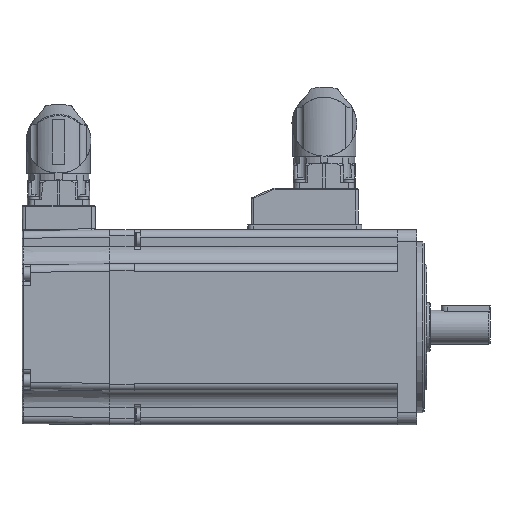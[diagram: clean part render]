
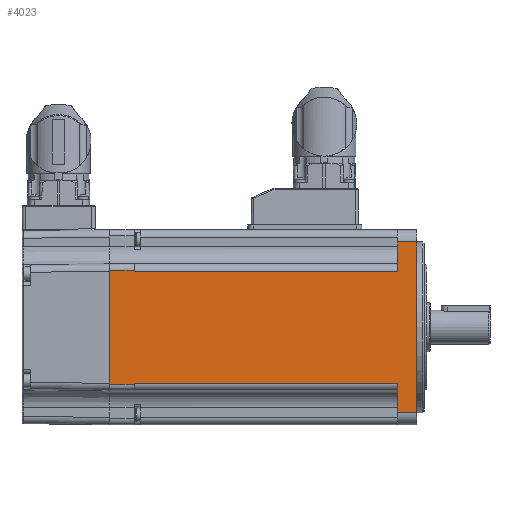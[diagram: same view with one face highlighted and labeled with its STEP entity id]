
A CAD part, left-side view. The second image highlights one B-rep face of the part: STEP entity #4023.
In plain terms, the highlighted planar face has unit normal (-1, 0, 0).
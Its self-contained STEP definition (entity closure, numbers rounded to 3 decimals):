
#4023 = ADVANCED_FACE( '', ( #10103 ), #10104, .T. );
#10103 = FACE_OUTER_BOUND( '', #21204, .T. );
#10104 = PLANE( '', #21205 );
#21204 = EDGE_LOOP( '', ( #40256, #40257, #40258, #40259, #40260, #40261, #40262, #40263, #40264, #40265, #40266, #40267, #40268, #40269 ) );
#21205 = AXIS2_PLACEMENT_3D( '', #40270, #40271, #40272 );
#40256 = ORIENTED_EDGE( '', *, *, #60273, .T. );
#40257 = ORIENTED_EDGE( '', *, *, #60274, .T. );
#40258 = ORIENTED_EDGE( '', *, *, #60275, .T. );
#40259 = ORIENTED_EDGE( '', *, *, #60276, .F. );
#40260 = ORIENTED_EDGE( '', *, *, #60277, .F. );
#40261 = ORIENTED_EDGE( '', *, *, #60278, .F. );
#40262 = ORIENTED_EDGE( '', *, *, #60279, .T. );
#40263 = ORIENTED_EDGE( '', *, *, #60280, .T. );
#40264 = ORIENTED_EDGE( '', *, *, #60281, .T. );
#40265 = ORIENTED_EDGE( '', *, *, #60282, .F. );
#40266 = ORIENTED_EDGE( '', *, *, #60283, .T. );
#40267 = ORIENTED_EDGE( '', *, *, #58603, .F. );
#40268 = ORIENTED_EDGE( '', *, *, #58903, .T. );
#40269 = ORIENTED_EDGE( '', *, *, #60284, .F. );
#40270 = CARTESIAN_POINT( '', ( -40., 78.5, -40. ) );
#40271 = DIRECTION( '', ( -1., 0., 0. ) );
#40272 = DIRECTION( '', ( 0., 0., 1. ) );
#58603 = EDGE_CURVE( '', #69419, #69421, #69422, .T. );
#58903 = EDGE_CURVE( '', #69419, #69919, #69921, .F. );
#60273 = EDGE_CURVE( '', #72121, #72122, #72123, .F. );
#60274 = EDGE_CURVE( '', #72122, #72124, #72125, .T. );
#60275 = EDGE_CURVE( '', #72124, #72126, #72127, .F. );
#60276 = EDGE_CURVE( '', #72128, #72126, #72129, .T. );
#60277 = EDGE_CURVE( '', #72130, #72128, #72131, .T. );
#60278 = EDGE_CURVE( '', #72132, #72130, #72133, .T. );
#60279 = EDGE_CURVE( '', #72132, #72134, #72135, .F. );
#60280 = EDGE_CURVE( '', #72134, #72136, #72137, .T. );
#60281 = EDGE_CURVE( '', #72136, #72138, #72139, .T. );
#60282 = EDGE_CURVE( '', #72140, #72138, #72141, .T. );
#60283 = EDGE_CURVE( '', #72140, #69421, #72142, .T. );
#60284 = EDGE_CURVE( '', #72121, #69919, #72143, .T. );
#69419 = VERTEX_POINT( '', #87048 );
#69421 = VERTEX_POINT( '', #87050 );
#69422 = LINE( '', #87051, #87052 );
#69919 = VERTEX_POINT( '', #87936 );
#69921 = LINE( '', #87938, #87939 );
#72121 = VERTEX_POINT( '', #92915 );
#72122 = VERTEX_POINT( '', #92916 );
#72123 = LINE( '', #92917, #92918 );
#72124 = VERTEX_POINT( '', #92919 );
#72125 = LINE( '', #92920, #92921 );
#72126 = VERTEX_POINT( '', #92922 );
#72127 = LINE( '', #92923, #92924 );
#72128 = VERTEX_POINT( '', #92925 );
#72129 = LINE( '', #92926, #92927 );
#72130 = VERTEX_POINT( '', #92928 );
#72131 = LINE( '', #92929, #92930 );
#72132 = VERTEX_POINT( '', #92931 );
#72133 = LINE( '', #92932, #92933 );
#72134 = VERTEX_POINT( '', #92934 );
#72135 = LINE( '', #92935, #92936 );
#72136 = VERTEX_POINT( '', #92937 );
#72137 = LINE( '', #92938, #92939 );
#72138 = VERTEX_POINT( '', #92940 );
#72139 = LINE( '', #92941, #92942 );
#72140 = VERTEX_POINT( '', #92943 );
#72141 = LINE( '', #92944, #92945 );
#72142 = LINE( '', #92946, #92947 );
#72143 = LINE( '', #92948, #92949 );
#87048 = CARTESIAN_POINT( '', ( -40., 17., 35. ) );
#87050 = CARTESIAN_POINT( '', ( -40., 17., -35. ) );
#87051 = CARTESIAN_POINT( '', ( -40., 17., 40. ) );
#87052 = VECTOR( '', #111219, 1000. );
#87936 = CARTESIAN_POINT( '', ( -40., 25., 35. ) );
#87938 = CARTESIAN_POINT( '', ( -40., 214.036, 35. ) );
#87939 = VECTOR( '', #111590, 1000. );
#92915 = CARTESIAN_POINT( '', ( -40., 25., 23. ) );
#92916 = CARTESIAN_POINT( '', ( -40., 133., 23. ) );
#92917 = CARTESIAN_POINT( '', ( -40., 138.5, 23. ) );
#92918 = VECTOR( '', #113245, 1000. );
#92919 = CARTESIAN_POINT( '', ( -40., 133., 23.5 ) );
#92920 = CARTESIAN_POINT( '', ( -40., 133., -40. ) );
#92921 = VECTOR( '', #113246, 1000. );
#92922 = CARTESIAN_POINT( '', ( -40., 143., 23.5 ) );
#92923 = CARTESIAN_POINT( '', ( -40., 148.151, 23.5 ) );
#92924 = VECTOR( '', #113247, 1000. );
#92925 = CARTESIAN_POINT( '', ( -40., 143., 23. ) );
#92926 = CARTESIAN_POINT( '', ( -40., 143., -40. ) );
#92927 = VECTOR( '', #113248, 1000. );
#92928 = CARTESIAN_POINT( '', ( -40., 143., -23. ) );
#92929 = CARTESIAN_POINT( '', ( -40., 143., 40. ) );
#92930 = VECTOR( '', #113249, 1000. );
#92931 = CARTESIAN_POINT( '', ( -40., 143., -23.5 ) );
#92932 = CARTESIAN_POINT( '', ( -40., 143., -40. ) );
#92933 = VECTOR( '', #113250, 1000. );
#92934 = CARTESIAN_POINT( '', ( -40., 133., -23.5 ) );
#92935 = CARTESIAN_POINT( '', ( -40., 78.151, -23.5 ) );
#92936 = VECTOR( '', #113251, 1000. );
#92937 = CARTESIAN_POINT( '', ( -40., 133., -23. ) );
#92938 = CARTESIAN_POINT( '', ( -40., 133., -40. ) );
#92939 = VECTOR( '', #113252, 1000. );
#92940 = CARTESIAN_POINT( '', ( -40., 25., -23. ) );
#92941 = CARTESIAN_POINT( '', ( -40., 78.5, -23. ) );
#92942 = VECTOR( '', #113253, 1000. );
#92943 = CARTESIAN_POINT( '', ( -40., 25., -35. ) );
#92944 = CARTESIAN_POINT( '', ( -40., 25., 40. ) );
#92945 = VECTOR( '', #113254, 1000. );
#92946 = CARTESIAN_POINT( '', ( -40., 214.036, -35. ) );
#92947 = VECTOR( '', #113255, 1000. );
#92948 = CARTESIAN_POINT( '', ( -40., 25., 40. ) );
#92949 = VECTOR( '', #113256, 1000. );
#111219 = DIRECTION( '', ( 0., 0., -1. ) );
#111590 = DIRECTION( '', ( 0., -1., 0. ) );
#113245 = DIRECTION( '', ( 0., -1., 0. ) );
#113246 = DIRECTION( '', ( 0., 0., 1. ) );
#113247 = DIRECTION( '', ( 0., -1., 0. ) );
#113248 = DIRECTION( '', ( 0., 0., 1. ) );
#113249 = DIRECTION( '', ( 0., 0., 1. ) );
#113250 = DIRECTION( '', ( 0., 0., 1. ) );
#113251 = DIRECTION( '', ( 0., 1., 0. ) );
#113252 = DIRECTION( '', ( 0., 0., 1. ) );
#113253 = DIRECTION( '', ( 0., -1., 0. ) );
#113254 = DIRECTION( '', ( 0., 0., 1. ) );
#113255 = DIRECTION( '', ( 0., -1., 0. ) );
#113256 = DIRECTION( '', ( 0., 0., 1. ) );
